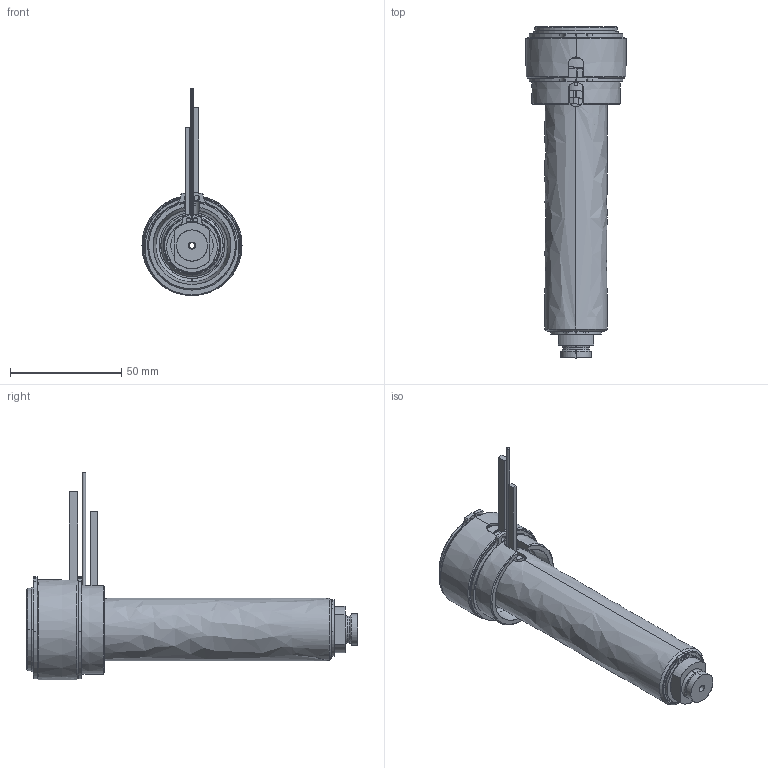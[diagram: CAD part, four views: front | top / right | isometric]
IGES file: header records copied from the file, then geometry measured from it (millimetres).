
Start section: SolidWorks IGES file using analytic representation for surfaces
Global section: file name: C:\Documents and Settings\ws-20\Desktop\TEM\UGBE4503-M-A-3 [Ød-2.5 P-0 ØC-10].IGS; native system: SolidWorks 2012; preprocessor: SolidWorks 2012; author: ws-20; date: 120412.154554; units: millimetre
Bounding box: 45 x 149.25 x 93.15 mm (x, y, z)
Surface area: 54538.2 mm2 (no closed solid volume)
Topology: 0 solids, 0 shells, 161 faces, 2999 edges, 2999 vertices
Faces by surface type: revolution 99, bspline 62
